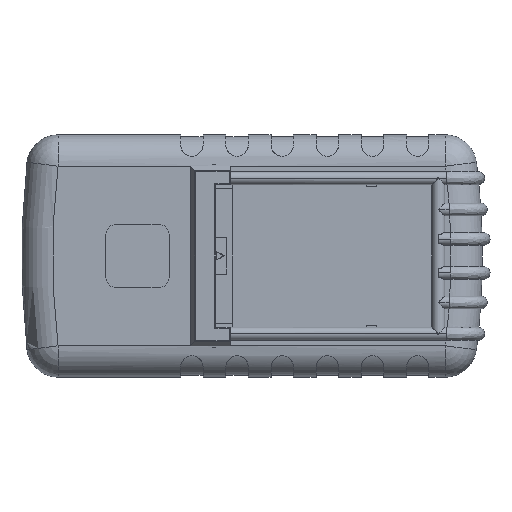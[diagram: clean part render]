
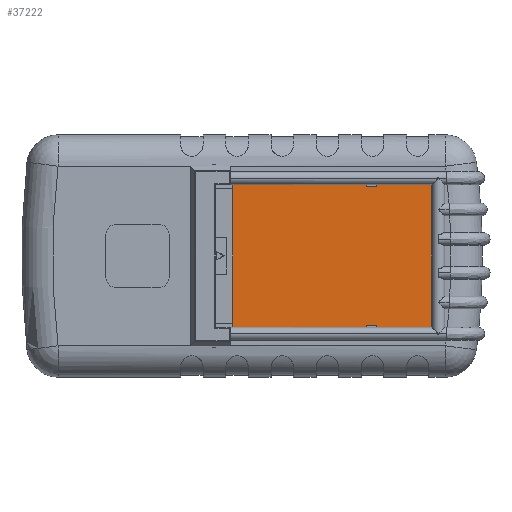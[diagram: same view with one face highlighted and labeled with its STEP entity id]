
A CAD part, front view. The second image highlights one B-rep face of the part: STEP entity #37222.
In plain terms, the highlighted planar face has unit normal (0, -1, 0).
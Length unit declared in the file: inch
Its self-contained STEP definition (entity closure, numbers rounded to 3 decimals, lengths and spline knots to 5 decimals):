
#1239 = CARTESIAN_POINT ( 'NONE',  ( 0., 0.08, 1.31062 ) ) ;
#1392 = CARTESIAN_POINT ( 'NONE',  ( 2.35422, 0.08, 1.3435 ) ) ;
#1536 = CARTESIAN_POINT ( 'NONE',  ( 3.39416, 0.08, 1.3435 ) ) ;
#1595 = DIRECTION ( 'NONE',  ( 0., 0., -1. ) ) ;
#1694 = CARTESIAN_POINT ( 'NONE',  ( 2.15422, 0.08, 0. ) ) ;
#1979 = DIRECTION ( 'NONE',  ( -1., 0., 0. ) ) ;
#2632 = VERTEX_POINT ( 'NONE', #7738 ) ;
#2710 = CARTESIAN_POINT ( 'NONE',  ( 2.15422, 0.08, 0. ) ) ;
#3992 = VERTEX_POINT ( 'NONE', #6059 ) ;
#4402 = DIRECTION ( 'NONE',  ( 1., 0., 0. ) ) ;
#4410 = EDGE_CURVE ( 'NONE', #5094, #21621, #5575, .T. ) ;
#4518 = LINE ( 'NONE', #36489, #28984 ) ;
#5094 = VERTEX_POINT ( 'NONE', #1392 ) ;
#5330 = LINE ( 'NONE', #8250, #22016 ) ;
#5442 = VECTOR ( 'NONE', #1979, 39.37008 ) ;
#5575 = LINE ( 'NONE', #22862, #23311 ) ;
#6059 = CARTESIAN_POINT ( 'NONE',  ( 2.15422, 0.08, -1.3435 ) ) ;
#6098 = ORIENTED_EDGE ( 'NONE', *, *, #29886, .T. ) ;
#6560 = VERTEX_POINT ( 'NONE', #39774 ) ;
#6856 = EDGE_CURVE ( 'NONE', #2632, #37539, #4518, .T. ) ;
#7114 = VERTEX_POINT ( 'NONE', #14663 ) ;
#7705 = LINE ( 'NONE', #2710, #41101 ) ;
#7725 = ORIENTED_EDGE ( 'NONE', *, *, #8297, .T. ) ;
#7738 = CARTESIAN_POINT ( 'NONE',  ( -0.35584, 0.08, 1.3435 ) ) ;
#8031 = EDGE_CURVE ( 'NONE', #37539, #3992, #16942, .T. ) ;
#8250 = CARTESIAN_POINT ( 'NONE',  ( 0., 0.08, -1.31062 ) ) ;
#8297 = EDGE_CURVE ( 'NONE', #21621, #20590, #23175, .T. ) ;
#8462 = DIRECTION ( 'NONE',  ( -1., 0., 0. ) ) ;
#8916 = PLANE ( 'NONE',  #19352 ) ;
#10254 = EDGE_CURVE ( 'NONE', #6560, #3992, #18313, .T. ) ;
#12492 = ORIENTED_EDGE ( 'NONE', *, *, #21957, .T. ) ;
#13019 = FACE_OUTER_BOUND ( 'NONE', #23239, .T. ) ;
#14663 = CARTESIAN_POINT ( 'NONE',  ( 2.35422, 0.08, -1.31062 ) ) ;
#14915 = ORIENTED_EDGE ( 'NONE', *, *, #8031, .T. ) ;
#15342 = VERTEX_POINT ( 'NONE', #18180 ) ;
#15606 = CARTESIAN_POINT ( 'NONE',  ( 0., 0.08, 0. ) ) ;
#15616 = VECTOR ( 'NONE', #16253, 39.37008 ) ;
#16253 = DIRECTION ( 'NONE',  ( 0., 0., 1. ) ) ;
#16570 = CARTESIAN_POINT ( 'NONE',  ( 2.35422, 0.08, -1.3435 ) ) ;
#16942 = LINE ( 'NONE', #21166, #32559 ) ;
#17279 = VECTOR ( 'NONE', #1595, 39.37008 ) ;
#17432 = EDGE_CURVE ( 'NONE', #24574, #5094, #21458, .T. ) ;
#18180 = CARTESIAN_POINT ( 'NONE',  ( 3.39416, 0.08, -1.3435 ) ) ;
#18313 = LINE ( 'NONE', #1694, #17279 ) ;
#19352 = AXIS2_PLACEMENT_3D ( 'NONE', #15606, #42301, #22320 ) ;
#19787 = CARTESIAN_POINT ( 'NONE',  ( 2.35422, 0.08, 1.31062 ) ) ;
#19899 = DIRECTION ( 'NONE',  ( 0., 0., 1. ) ) ;
#20357 = EDGE_CURVE ( 'NONE', #7114, #6560, #5330, .T. ) ;
#20590 = VERTEX_POINT ( 'NONE', #23226 ) ;
#21160 = CARTESIAN_POINT ( 'NONE',  ( 3.39416, 0.08, 1.3435 ) ) ;
#21166 = CARTESIAN_POINT ( 'NONE',  ( -0.35584, 0.08, -1.3435 ) ) ;
#21212 = DIRECTION ( 'NONE',  ( 1., 0., 0. ) ) ;
#21458 = LINE ( 'NONE', #1536, #38151 ) ;
#21621 = VERTEX_POINT ( 'NONE', #19787 ) ;
#21957 = EDGE_CURVE ( 'NONE', #15342, #24574, #25520, .T. ) ;
#22016 = VECTOR ( 'NONE', #41487, 39.37008 ) ;
#22029 = EDGE_CURVE ( 'NONE', #33227, #7114, #40153, .T. ) ;
#22320 = DIRECTION ( 'NONE',  ( 0., 0., -1. ) ) ;
#22862 = CARTESIAN_POINT ( 'NONE',  ( 2.35422, 0.08, 0. ) ) ;
#23175 = LINE ( 'NONE', #1239, #5442 ) ;
#23226 = CARTESIAN_POINT ( 'NONE',  ( 2.15422, 0.08, 1.31062 ) ) ;
#23239 = EDGE_LOOP ( 'NONE', ( #7725, #6098, #25551, #34495, #14915, #31766, #26370, #31638, #36643, #12492, #41034, #34164 ) ) ;
#23311 = VECTOR ( 'NONE', #42252, 39.37008 ) ;
#24357 = CARTESIAN_POINT ( 'NONE',  ( -0.35584, 0.08, -1.3435 ) ) ;
#24574 = VERTEX_POINT ( 'NONE', #21160 ) ;
#25520 = LINE ( 'NONE', #26169, #15616 ) ;
#25551 = ORIENTED_EDGE ( 'NONE', *, *, #38847, .T. ) ;
#26169 = CARTESIAN_POINT ( 'NONE',  ( 3.39416, 0.08, -1.3435 ) ) ;
#26370 = ORIENTED_EDGE ( 'NONE', *, *, #20357, .F. ) ;
#27109 = VERTEX_POINT ( 'NONE', #29342 ) ;
#28984 = VECTOR ( 'NONE', #36193, 39.37008 ) ;
#29342 = CARTESIAN_POINT ( 'NONE',  ( 2.15422, 0.08, 1.3435 ) ) ;
#29758 = VECTOR ( 'NONE', #4402, 39.37008 ) ;
#29886 = EDGE_CURVE ( 'NONE', #20590, #27109, #7705, .T. ) ;
#30201 = VECTOR ( 'NONE', #19899, 39.37008 ) ;
#31638 = ORIENTED_EDGE ( 'NONE', *, *, #22029, .F. ) ;
#31766 = ORIENTED_EDGE ( 'NONE', *, *, #10254, .F. ) ;
#31770 = CARTESIAN_POINT ( 'NONE',  ( 3.39416, 0.08, 1.3435 ) ) ;
#32559 = VECTOR ( 'NONE', #21212, 39.37008 ) ;
#33145 = CARTESIAN_POINT ( 'NONE',  ( 2.35422, 0.08, 0. ) ) ;
#33227 = VERTEX_POINT ( 'NONE', #16570 ) ;
#33766 = LINE ( 'NONE', #31770, #39529 ) ;
#34164 = ORIENTED_EDGE ( 'NONE', *, *, #4410, .T. ) ;
#34495 = ORIENTED_EDGE ( 'NONE', *, *, #6856, .T. ) ;
#36193 = DIRECTION ( 'NONE',  ( 0., 0., -1. ) ) ;
#36489 = CARTESIAN_POINT ( 'NONE',  ( -0.35584, 0.08, 1.3435 ) ) ;
#36643 = ORIENTED_EDGE ( 'NONE', *, *, #43101, .T. ) ;
#37222 = ADVANCED_FACE ( 'NONE', ( #13019 ), #8916, .T. ) ;
#37539 = VERTEX_POINT ( 'NONE', #40678 ) ;
#38151 = VECTOR ( 'NONE', #41481, 39.37008 ) ;
#38847 = EDGE_CURVE ( 'NONE', #27109, #2632, #33766, .T. ) ;
#39529 = VECTOR ( 'NONE', #8462, 39.37008 ) ;
#39710 = LINE ( 'NONE', #24357, #29758 ) ;
#39774 = CARTESIAN_POINT ( 'NONE',  ( 2.15422, 0.08, -1.31062 ) ) ;
#40153 = LINE ( 'NONE', #33145, #30201 ) ;
#40678 = CARTESIAN_POINT ( 'NONE',  ( -0.35584, 0.08, -1.3435 ) ) ;
#41034 = ORIENTED_EDGE ( 'NONE', *, *, #17432, .T. ) ;
#41101 = VECTOR ( 'NONE', #42768, 39.37008 ) ;
#41481 = DIRECTION ( 'NONE',  ( -1., 0., 0. ) ) ;
#41487 = DIRECTION ( 'NONE',  ( -1., 0., 0. ) ) ;
#42252 = DIRECTION ( 'NONE',  ( 0., 0., -1. ) ) ;
#42301 = DIRECTION ( 'NONE',  ( 0., -1., 0. ) ) ;
#42768 = DIRECTION ( 'NONE',  ( 0., 0., 1. ) ) ;
#43101 = EDGE_CURVE ( 'NONE', #33227, #15342, #39710, .T. ) ;
